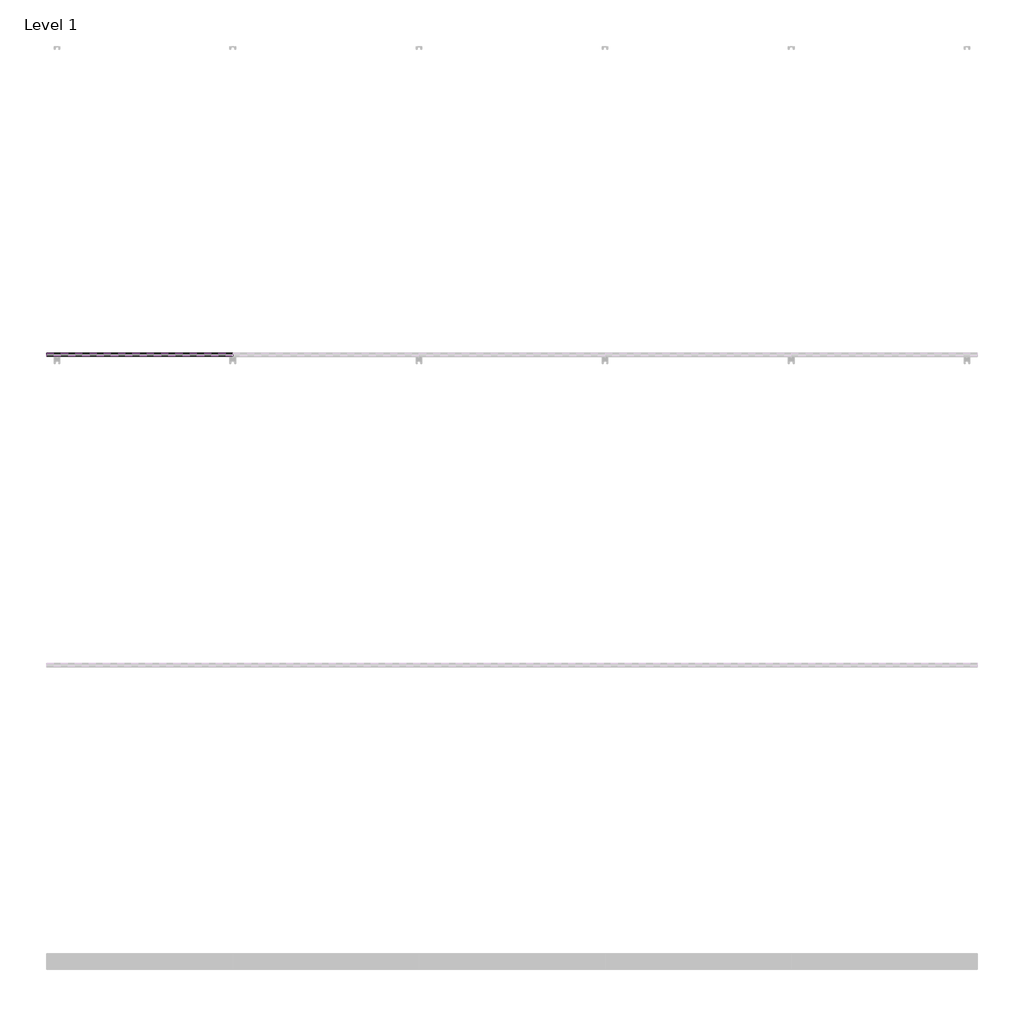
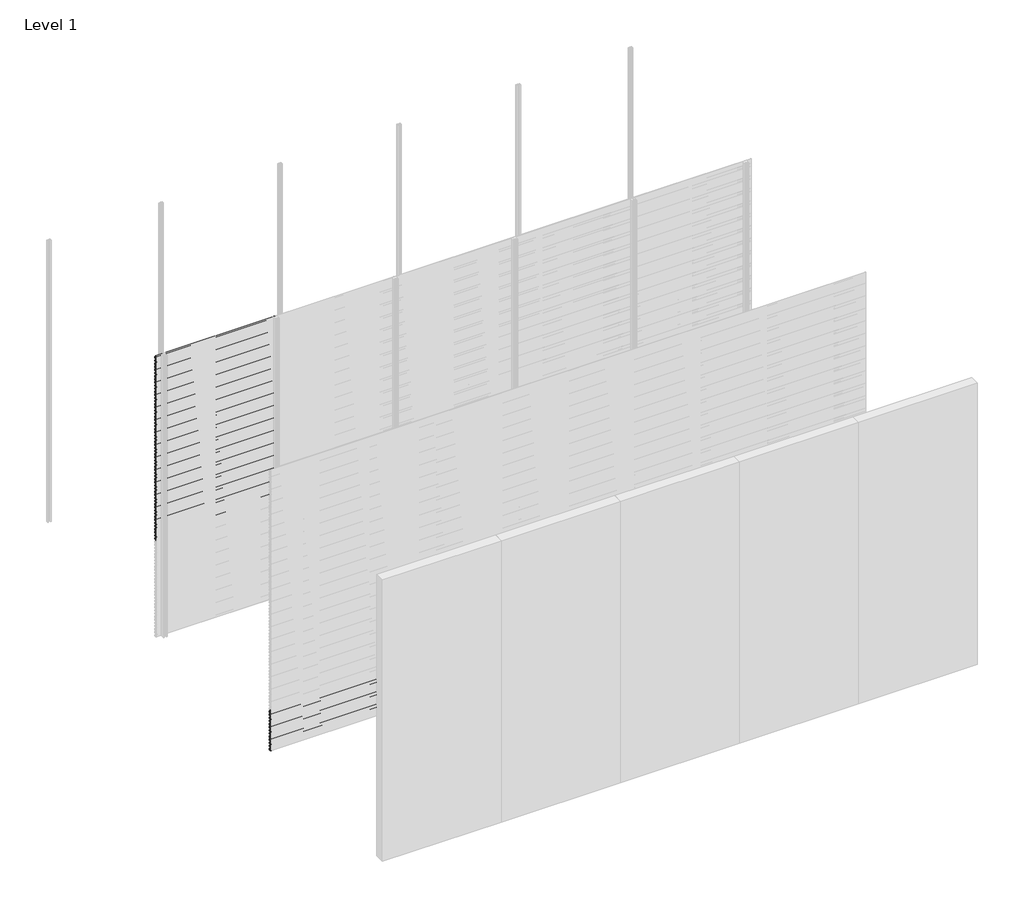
# One storey, part 57 of 77: 72 proxies.
"""IFC4 building model written with IfcOpenShell, lengths in millimetres."""

from ifc_helpers import new_model, si_unit, frame, origin, place, context, project, spatial, polyline, outline, extrude, element, save

model = new_model("IFC4")

# Units and contexts
model_context = context("Model", 3, world=origin())
ifc_project = project(units=[si_unit("LENGTHUNIT", "METRE", prefix="MILLI")], contexts=[model_context])

# Site, building, storey
site = spatial("IfcSite", under=ifc_project)
building = spatial("IfcBuilding", under=site)
storey = spatial("IfcBuildingStorey", under=building, Name="Level 1", Elevation=0.0)

# Proxies
placement = place(None, origin())
element("IfcBuildingElementProxy", 1, Name="Wall Sweeps", at=placement, inside=storey, context=model_context, shape_type="SweptSolid", body=[
    extrude(outline(polyline([(-11978.6, 2972.5359887), (-11998.0, 2983.7366691), (-11998.0, 2997.0), (-11997.0, 2997.0), (-11997.0, 2984.3191057), (-11977.6, 2973.1185105), (-11977.6, 2959.5185105), (-11978.6, 2961.0953129), (-11978.6, 2966.9032062), (-11995.9773817, 2958.8), (-11996.4, 2959.7063078), (-11978.6, 2968.0065841), (-11978.6, 2972.5359887)])), frame((0.0, 0.0, 0.0), z_axis=(1.0, 0.0, 0.0), x_axis=(0.0, 1.0, 0.0)), (0.0, 0.0, 1.0), 1200.0),
])
element("IfcBuildingElementProxy", 2, Name="Wall Sweeps", at=placement, inside=storey, context=model_context, shape_type="SweptSolid", body=[
    extrude(outline(polyline([(-11978.6, 2939.2359887), (-11998.0, 2950.4366691), (-11998.0, 2963.7), (-11997.0, 2963.7), (-11997.0, 2951.0191057), (-11977.6, 2939.8185105), (-11977.6, 2926.2185105), (-11978.6, 2927.7953129), (-11978.6, 2933.6032062), (-11995.9773817, 2925.5), (-11996.4, 2926.4063078), (-11978.6, 2934.7065841), (-11978.6, 2939.2359887)])), frame((0.0, 0.0, 0.0), z_axis=(1.0, 0.0, 0.0), x_axis=(0.0, 1.0, 0.0)), (0.0, 0.0, 1.0), 1200.0),
])
element("IfcBuildingElementProxy", 3, Name="Wall Sweeps", at=placement, inside=storey, context=model_context, shape_type="SweptSolid", body=[
    extrude(outline(polyline([(-11978.6, 2905.9359887), (-11998.0, 2917.1366691), (-11998.0, 2930.4), (-11997.0, 2930.4), (-11997.0, 2917.7191057), (-11977.6, 2906.5185105), (-11977.6, 2892.9185105), (-11978.6, 2894.4953129), (-11978.6, 2900.3032062), (-11995.9773817, 2892.2), (-11996.4, 2893.1063078), (-11978.6, 2901.4065841), (-11978.6, 2905.9359887)])), frame((0.0, 0.0, 0.0), z_axis=(1.0, 0.0, 0.0), x_axis=(0.0, 1.0, 0.0)), (0.0, 0.0, 1.0), 1200.0),
])
element("IfcBuildingElementProxy", 4, Name="Wall Sweeps", at=placement, inside=storey, context=model_context, shape_type="SweptSolid", body=[
    extrude(outline(polyline([(-11978.6, 2872.6359887), (-11998.0, 2883.8366691), (-11998.0, 2897.1), (-11997.0, 2897.1), (-11997.0, 2884.4191057), (-11977.6, 2873.2185105), (-11977.6, 2859.6185105), (-11978.6, 2861.1953129), (-11978.6, 2867.0032062), (-11995.9773817, 2858.9), (-11996.4, 2859.8063078), (-11978.6, 2868.1065841), (-11978.6, 2872.6359887)])), frame((0.0, 0.0, 0.0), z_axis=(1.0, 0.0, 0.0), x_axis=(0.0, 1.0, 0.0)), (0.0, 0.0, 1.0), 1200.0),
])
element("IfcBuildingElementProxy", 5, Name="Wall Sweeps", at=placement, inside=storey, context=model_context, shape_type="SweptSolid", body=[
    extrude(outline(polyline([(-11978.6, 2839.3359887), (-11998.0, 2850.5366691), (-11998.0, 2863.8), (-11997.0, 2863.8), (-11997.0, 2851.1191057), (-11977.6, 2839.9185105), (-11977.6, 2826.3185105), (-11978.6, 2827.8953129), (-11978.6, 2833.7032062), (-11995.9773817, 2825.6), (-11996.4, 2826.5063078), (-11978.6, 2834.8065841), (-11978.6, 2839.3359887)])), frame((0.0, 0.0, 0.0), z_axis=(1.0, 0.0, 0.0), x_axis=(0.0, 1.0, 0.0)), (0.0, 0.0, 1.0), 1200.0),
])
element("IfcBuildingElementProxy", 6, Name="Wall Sweeps", at=placement, inside=storey, context=model_context, shape_type="SweptSolid", body=[
    extrude(outline(polyline([(-11978.6, 2806.0359887), (-11998.0, 2817.2366691), (-11998.0, 2830.5), (-11997.0, 2830.5), (-11997.0, 2817.8191057), (-11977.6, 2806.6185105), (-11977.6, 2793.0185105), (-11978.6, 2794.5953129), (-11978.6, 2800.4032062), (-11995.9773817, 2792.3), (-11996.4, 2793.2063078), (-11978.6, 2801.5065841), (-11978.6, 2806.0359887)])), frame((0.0, 0.0, 0.0), z_axis=(1.0, 0.0, 0.0), x_axis=(0.0, 1.0, 0.0)), (0.0, 0.0, 1.0), 1200.0),
])
element("IfcBuildingElementProxy", 7, Name="Wall Sweeps", at=placement, inside=storey, context=model_context, shape_type="SweptSolid", body=[
    extrude(outline(polyline([(-11978.6, 2772.7359887), (-11998.0, 2783.9366691), (-11998.0, 2797.2), (-11997.0, 2797.2), (-11997.0, 2784.5191057), (-11977.6, 2773.3185105), (-11977.6, 2759.7185105), (-11978.6, 2761.2953129), (-11978.6, 2767.1032062), (-11995.9773817, 2759.0), (-11996.4, 2759.9063078), (-11978.6, 2768.2065841), (-11978.6, 2772.7359887)])), frame((0.0, 0.0, 0.0), z_axis=(1.0, 0.0, 0.0), x_axis=(0.0, 1.0, 0.0)), (0.0, 0.0, 1.0), 1200.0),
])
element("IfcBuildingElementProxy", 8, Name="Wall Sweeps", at=placement, inside=storey, context=model_context, shape_type="SweptSolid", body=[
    extrude(outline(polyline([(-11978.6, 2739.4359887), (-11998.0, 2750.6366691), (-11998.0, 2763.9), (-11997.0, 2763.9), (-11997.0, 2751.2191057), (-11977.6, 2740.0185105), (-11977.6, 2726.4185105), (-11978.6, 2727.9953129), (-11978.6, 2733.8032062), (-11995.9773817, 2725.7), (-11996.4, 2726.6063078), (-11978.6, 2734.9065841), (-11978.6, 2739.4359887)])), frame((0.0, 0.0, 0.0), z_axis=(1.0, 0.0, 0.0), x_axis=(0.0, 1.0, 0.0)), (0.0, 0.0, 1.0), 1200.0),
])
element("IfcBuildingElementProxy", 9, Name="Wall Sweeps", at=placement, inside=storey, context=model_context, shape_type="SweptSolid", body=[
    extrude(outline(polyline([(-11978.6, 2706.1359887), (-11998.0, 2717.3366691), (-11998.0, 2730.6), (-11997.0, 2730.6), (-11997.0, 2717.9191057), (-11977.6, 2706.7185105), (-11977.6, 2693.1185105), (-11978.6, 2694.6953129), (-11978.6, 2700.5032062), (-11995.9773817, 2692.4), (-11996.4, 2693.3063078), (-11978.6, 2701.6065841), (-11978.6, 2706.1359887)])), frame((0.0, 0.0, 0.0), z_axis=(1.0, 0.0, 0.0), x_axis=(0.0, 1.0, 0.0)), (0.0, 0.0, 1.0), 1200.0),
])
element("IfcBuildingElementProxy", 10, Name="Wall Sweeps", at=placement, inside=storey, context=model_context, shape_type="SweptSolid", body=[
    extrude(outline(polyline([(-11978.6, 2672.8359887), (-11998.0, 2684.0366691), (-11998.0, 2697.3), (-11997.0, 2697.3), (-11997.0, 2684.6191057), (-11977.6, 2673.4185105), (-11977.6, 2659.8185105), (-11978.6, 2661.3953129), (-11978.6, 2667.2032062), (-11995.9773817, 2659.1), (-11996.4, 2660.0063078), (-11978.6, 2668.3065841), (-11978.6, 2672.8359887)])), frame((0.0, 0.0, 0.0), z_axis=(1.0, 0.0, 0.0), x_axis=(0.0, 1.0, 0.0)), (0.0, 0.0, 1.0), 1200.0),
])
element("IfcBuildingElementProxy", 11, Name="Wall Sweeps", at=placement, inside=storey, context=model_context, shape_type="SweptSolid", body=[
    extrude(outline(polyline([(-11978.6, 2639.5359887), (-11998.0, 2650.7366691), (-11998.0, 2664.0), (-11997.0, 2664.0), (-11997.0, 2651.3191057), (-11977.6, 2640.1185105), (-11977.6, 2626.5185105), (-11978.6, 2628.0953129), (-11978.6, 2633.9032062), (-11995.9773817, 2625.8), (-11996.4, 2626.7063078), (-11978.6, 2635.0065841), (-11978.6, 2639.5359887)])), frame((0.0, 0.0, 0.0), z_axis=(1.0, 0.0, 0.0), x_axis=(0.0, 1.0, 0.0)), (0.0, 0.0, 1.0), 1200.0),
])
element("IfcBuildingElementProxy", 12, Name="Wall Sweeps", at=placement, inside=storey, context=model_context, shape_type="SweptSolid", body=[
    extrude(outline(polyline([(-11978.6, 2606.2359887), (-11998.0, 2617.4366691), (-11998.0, 2630.7), (-11997.0, 2630.7), (-11997.0, 2618.0191057), (-11977.6, 2606.8185105), (-11977.6, 2593.2185105), (-11978.6, 2594.7953129), (-11978.6, 2600.6032062), (-11995.9773817, 2592.5), (-11996.4, 2593.4063078), (-11978.6, 2601.7065841), (-11978.6, 2606.2359887)])), frame((0.0, 0.0, 0.0), z_axis=(1.0, 0.0, 0.0), x_axis=(0.0, 1.0, 0.0)), (0.0, 0.0, 1.0), 1200.0),
])
element("IfcBuildingElementProxy", 13, Name="Wall Sweeps", at=placement, inside=storey, context=model_context, shape_type="SweptSolid", body=[
    extrude(outline(polyline([(-11978.6, 2572.9359887), (-11998.0, 2584.1366691), (-11998.0, 2597.4), (-11997.0, 2597.4), (-11997.0, 2584.7191057), (-11977.6, 2573.5185105), (-11977.6, 2559.9185105), (-11978.6, 2561.4953129), (-11978.6, 2567.3032062), (-11995.9773817, 2559.2), (-11996.4, 2560.1063078), (-11978.6, 2568.4065841), (-11978.6, 2572.9359887)])), frame((0.0, 0.0, 0.0), z_axis=(1.0, 0.0, 0.0), x_axis=(0.0, 1.0, 0.0)), (0.0, 0.0, 1.0), 1200.0),
])
element("IfcBuildingElementProxy", 14, Name="Wall Sweeps", at=placement, inside=storey, context=model_context, shape_type="SweptSolid", body=[
    extrude(outline(polyline([(-11978.6, 2539.6359887), (-11998.0, 2550.8366691), (-11998.0, 2564.1), (-11997.0, 2564.1), (-11997.0, 2551.4191057), (-11977.6, 2540.2185105), (-11977.6, 2526.6185105), (-11978.6, 2528.1953129), (-11978.6, 2534.0032062), (-11995.9773817, 2525.9), (-11996.4, 2526.8063078), (-11978.6, 2535.1065841), (-11978.6, 2539.6359887)])), frame((0.0, 0.0, 0.0), z_axis=(1.0, 0.0, 0.0), x_axis=(0.0, 1.0, 0.0)), (0.0, 0.0, 1.0), 1200.0),
])
element("IfcBuildingElementProxy", 15, Name="Wall Sweeps", at=placement, inside=storey, context=model_context, shape_type="SweptSolid", body=[
    extrude(outline(polyline([(-11978.6, 2506.3359887), (-11998.0, 2517.5366691), (-11998.0, 2530.8), (-11997.0, 2530.8), (-11997.0, 2518.1191057), (-11977.6, 2506.9185105), (-11977.6, 2493.3185105), (-11978.6, 2494.8953129), (-11978.6, 2500.7032062), (-11995.9773817, 2492.6), (-11996.4, 2493.5063078), (-11978.6, 2501.8065841), (-11978.6, 2506.3359887)])), frame((0.0, 0.0, 0.0), z_axis=(1.0, 0.0, 0.0), x_axis=(0.0, 1.0, 0.0)), (0.0, 0.0, 1.0), 1200.0),
])
element("IfcBuildingElementProxy", 16, Name="Wall Sweeps", at=placement, inside=storey, context=model_context, shape_type="SweptSolid", body=[
    extrude(outline(polyline([(-11978.6, 2473.0359887), (-11998.0, 2484.2366691), (-11998.0, 2497.5), (-11997.0, 2497.5), (-11997.0, 2484.8191057), (-11977.6, 2473.6185105), (-11977.6, 2460.0185105), (-11978.6, 2461.5953129), (-11978.6, 2467.4032062), (-11995.9773817, 2459.3), (-11996.4, 2460.2063078), (-11978.6, 2468.5065841), (-11978.6, 2473.0359887)])), frame((0.0, 0.0, 0.0), z_axis=(1.0, 0.0, 0.0), x_axis=(0.0, 1.0, 0.0)), (0.0, 0.0, 1.0), 1200.0),
])
element("IfcBuildingElementProxy", 17, Name="Wall Sweeps", at=placement, inside=storey, context=model_context, shape_type="SweptSolid", body=[
    extrude(outline(polyline([(-11978.6, 2439.7359887), (-11998.0, 2450.9366691), (-11998.0, 2464.2), (-11997.0, 2464.2), (-11997.0, 2451.5191057), (-11977.6, 2440.3185105), (-11977.6, 2426.7185105), (-11978.6, 2428.2953129), (-11978.6, 2434.1032062), (-11995.9773817, 2426.0), (-11996.4, 2426.9063078), (-11978.6, 2435.2065841), (-11978.6, 2439.7359887)])), frame((0.0, 0.0, 0.0), z_axis=(1.0, 0.0, 0.0), x_axis=(0.0, 1.0, 0.0)), (0.0, 0.0, 1.0), 1200.0),
])
element("IfcBuildingElementProxy", 18, Name="Wall Sweeps", at=placement, inside=storey, context=model_context, shape_type="SweptSolid", body=[
    extrude(outline(polyline([(-11978.6, 2406.4359887), (-11998.0, 2417.6366691), (-11998.0, 2430.9), (-11997.0, 2430.9), (-11997.0, 2418.2191057), (-11977.6, 2407.0185105), (-11977.6, 2393.4185105), (-11978.6, 2394.9953129), (-11978.6, 2400.8032062), (-11995.9773817, 2392.7), (-11996.4, 2393.6063078), (-11978.6, 2401.9065841), (-11978.6, 2406.4359887)])), frame((0.0, 0.0, 0.0), z_axis=(1.0, 0.0, 0.0), x_axis=(0.0, 1.0, 0.0)), (0.0, 0.0, 1.0), 1200.0),
])
element("IfcBuildingElementProxy", 19, Name="Wall Sweeps", at=placement, inside=storey, context=model_context, shape_type="SweptSolid", body=[
    extrude(outline(polyline([(-11978.6, 2373.1359887), (-11998.0, 2384.3366691), (-11998.0, 2397.6), (-11997.0, 2397.6), (-11997.0, 2384.9191057), (-11977.6, 2373.7185105), (-11977.6, 2360.1185105), (-11978.6, 2361.6953129), (-11978.6, 2367.5032062), (-11995.9773817, 2359.4), (-11996.4, 2360.3063078), (-11978.6, 2368.6065841), (-11978.6, 2373.1359887)])), frame((0.0, 0.0, 0.0), z_axis=(1.0, 0.0, 0.0), x_axis=(0.0, 1.0, 0.0)), (0.0, 0.0, 1.0), 1200.0),
])
element("IfcBuildingElementProxy", 20, Name="Wall Sweeps", at=placement, inside=storey, context=model_context, shape_type="SweptSolid", body=[
    extrude(outline(polyline([(-11978.6, 2339.8359887), (-11998.0, 2351.0366691), (-11998.0, 2364.3), (-11997.0, 2364.3), (-11997.0, 2351.6191057), (-11977.6, 2340.4185105), (-11977.6, 2326.8185105), (-11978.6, 2328.3953129), (-11978.6, 2334.2032062), (-11995.9773817, 2326.1), (-11996.4, 2327.0063078), (-11978.6, 2335.3065841), (-11978.6, 2339.8359887)])), frame((0.0, 0.0, 0.0), z_axis=(1.0, 0.0, 0.0), x_axis=(0.0, 1.0, 0.0)), (0.0, 0.0, 1.0), 1200.0),
])
element("IfcBuildingElementProxy", 21, Name="Wall Sweeps", at=placement, inside=storey, context=model_context, shape_type="SweptSolid", body=[
    extrude(outline(polyline([(-11978.6, 2306.5359887), (-11998.0, 2317.7366691), (-11998.0, 2331.0), (-11997.0, 2331.0), (-11997.0, 2318.3191057), (-11977.6, 2307.1185105), (-11977.6, 2293.5185105), (-11978.6, 2295.0953129), (-11978.6, 2300.9032062), (-11995.9773817, 2292.8), (-11996.4, 2293.7063078), (-11978.6, 2302.0065841), (-11978.6, 2306.5359887)])), frame((0.0, 0.0, 0.0), z_axis=(1.0, 0.0, 0.0), x_axis=(0.0, 1.0, 0.0)), (0.0, 0.0, 1.0), 1200.0),
])
element("IfcBuildingElementProxy", 22, Name="Wall Sweeps", at=placement, inside=storey, context=model_context, shape_type="SweptSolid", body=[
    extrude(outline(polyline([(-11978.6, 2273.2359887), (-11998.0, 2284.4366691), (-11998.0, 2297.7), (-11997.0, 2297.7), (-11997.0, 2285.0191057), (-11977.6, 2273.8185105), (-11977.6, 2260.2185105), (-11978.6, 2261.7953129), (-11978.6, 2267.6032062), (-11995.9773817, 2259.5), (-11996.4, 2260.4063078), (-11978.6, 2268.7065841), (-11978.6, 2273.2359887)])), frame((0.0, 0.0, 0.0), z_axis=(1.0, 0.0, 0.0), x_axis=(0.0, 1.0, 0.0)), (0.0, 0.0, 1.0), 1200.0),
])
element("IfcBuildingElementProxy", 23, Name="Wall Sweeps", at=placement, inside=storey, context=model_context, shape_type="SweptSolid", body=[
    extrude(outline(polyline([(-11978.6, 2239.9359887), (-11998.0, 2251.1366691), (-11998.0, 2264.4), (-11997.0, 2264.4), (-11997.0, 2251.7191057), (-11977.6, 2240.5185105), (-11977.6, 2226.9185105), (-11978.6, 2228.4953129), (-11978.6, 2234.3032062), (-11995.9773817, 2226.2), (-11996.4, 2227.1063078), (-11978.6, 2235.4065841), (-11978.6, 2239.9359887)])), frame((0.0, 0.0, 0.0), z_axis=(1.0, 0.0, 0.0), x_axis=(0.0, 1.0, 0.0)), (0.0, 0.0, 1.0), 1200.0),
])
element("IfcBuildingElementProxy", 24, Name="Wall Sweeps", at=placement, inside=storey, context=model_context, shape_type="SweptSolid", body=[
    extrude(outline(polyline([(-11978.6, 2206.6359887), (-11998.0, 2217.8366691), (-11998.0, 2231.1), (-11997.0, 2231.1), (-11997.0, 2218.4191057), (-11977.6, 2207.2185105), (-11977.6, 2193.6185105), (-11978.6, 2195.1953129), (-11978.6, 2201.0032062), (-11995.9773817, 2192.9), (-11996.4, 2193.8063078), (-11978.6, 2202.1065841), (-11978.6, 2206.6359887)])), frame((0.0, 0.0, 0.0), z_axis=(1.0, 0.0, 0.0), x_axis=(0.0, 1.0, 0.0)), (0.0, 0.0, 1.0), 1200.0),
])
element("IfcBuildingElementProxy", 25, Name="Wall Sweeps", at=placement, inside=storey, context=model_context, shape_type="SweptSolid", body=[
    extrude(outline(polyline([(-11978.6, 2173.3359887), (-11998.0, 2184.5366691), (-11998.0, 2197.8), (-11997.0, 2197.8), (-11997.0, 2185.1191057), (-11977.6, 2173.9185105), (-11977.6, 2160.3185105), (-11978.6, 2161.8953129), (-11978.6, 2167.7032062), (-11995.9773817, 2159.6), (-11996.4, 2160.5063078), (-11978.6, 2168.8065841), (-11978.6, 2173.3359887)])), frame((0.0, 0.0, 0.0), z_axis=(1.0, 0.0, 0.0), x_axis=(0.0, 1.0, 0.0)), (0.0, 0.0, 1.0), 1200.0),
])
element("IfcBuildingElementProxy", 26, Name="Wall Sweeps", at=placement, inside=storey, context=model_context, shape_type="SweptSolid", body=[
    extrude(outline(polyline([(-11978.6, 2140.0359887), (-11998.0, 2151.2366691), (-11998.0, 2164.5), (-11997.0, 2164.5), (-11997.0, 2151.8191057), (-11977.6, 2140.6185105), (-11977.6, 2127.0185105), (-11978.6, 2128.5953129), (-11978.6, 2134.4032062), (-11995.9773817, 2126.3), (-11996.4, 2127.2063078), (-11978.6, 2135.5065841), (-11978.6, 2140.0359887)])), frame((0.0, 0.0, 0.0), z_axis=(1.0, 0.0, 0.0), x_axis=(0.0, 1.0, 0.0)), (0.0, 0.0, 1.0), 1200.0),
])
element("IfcBuildingElementProxy", 27, Name="Wall Sweeps", at=placement, inside=storey, context=model_context, shape_type="SweptSolid", body=[
    extrude(outline(polyline([(-11978.6, 2106.7359887), (-11998.0, 2117.9366691), (-11998.0, 2131.2), (-11997.0, 2131.2), (-11997.0, 2118.5191057), (-11977.6, 2107.3185105), (-11977.6, 2093.7185105), (-11978.6, 2095.2953129), (-11978.6, 2101.1032062), (-11995.9773817, 2093.0), (-11996.4, 2093.9063078), (-11978.6, 2102.2065841), (-11978.6, 2106.7359887)])), frame((0.0, 0.0, 0.0), z_axis=(1.0, 0.0, 0.0), x_axis=(0.0, 1.0, 0.0)), (0.0, 0.0, 1.0), 1200.0),
])
element("IfcBuildingElementProxy", 28, Name="Wall Sweeps", at=placement, inside=storey, context=model_context, shape_type="SweptSolid", body=[
    extrude(outline(polyline([(-11978.6, 2073.4359887), (-11998.0, 2084.6366691), (-11998.0, 2097.9), (-11997.0, 2097.9), (-11997.0, 2085.2191057), (-11977.6, 2074.0185105), (-11977.6, 2060.4185105), (-11978.6, 2061.9953129), (-11978.6, 2067.8032062), (-11995.9773817, 2059.7), (-11996.4, 2060.6063078), (-11978.6, 2068.9065841), (-11978.6, 2073.4359887)])), frame((0.0, 0.0, 0.0), z_axis=(1.0, 0.0, 0.0), x_axis=(0.0, 1.0, 0.0)), (0.0, 0.0, 1.0), 1200.0),
])
element("IfcBuildingElementProxy", 29, Name="Wall Sweeps", at=placement, inside=storey, context=model_context, shape_type="SweptSolid", body=[
    extrude(outline(polyline([(-11978.6, 2040.1359887), (-11998.0, 2051.3366691), (-11998.0, 2064.6), (-11997.0, 2064.6), (-11997.0, 2051.9191057), (-11977.6, 2040.7185105), (-11977.6, 2027.1185105), (-11978.6, 2028.6953129), (-11978.6, 2034.5032062), (-11995.9773817, 2026.4), (-11996.4, 2027.3063078), (-11978.6, 2035.6065841), (-11978.6, 2040.1359887)])), frame((0.0, 0.0, 0.0), z_axis=(1.0, 0.0, 0.0), x_axis=(0.0, 1.0, 0.0)), (0.0, 0.0, 1.0), 1200.0),
])
element("IfcBuildingElementProxy", 30, Name="Wall Sweeps", at=placement, inside=storey, context=model_context, shape_type="SweptSolid", body=[
    extrude(outline(polyline([(-11978.6, 2006.8359887), (-11998.0, 2018.0366691), (-11998.0, 2031.3), (-11997.0, 2031.3), (-11997.0, 2018.6191057), (-11977.6, 2007.4185105), (-11977.6, 1993.8185105), (-11978.6, 1995.3953129), (-11978.6, 2001.2032062), (-11995.9773817, 1993.1), (-11996.4, 1994.0063078), (-11978.6, 2002.3065841), (-11978.6, 2006.8359887)])), frame((0.0, 0.0, 0.0), z_axis=(1.0, 0.0, 0.0), x_axis=(0.0, 1.0, 0.0)), (0.0, 0.0, 1.0), 1200.0),
])
element("IfcBuildingElementProxy", 31, Name="Wall Sweeps", at=placement, inside=storey, context=model_context, shape_type="SweptSolid", body=[
    extrude(outline(polyline([(-11978.6, 1973.5359887), (-11998.0, 1984.7366691), (-11998.0, 1998.0), (-11997.0, 1998.0), (-11997.0, 1985.3191057), (-11977.6, 1974.1185105), (-11977.6, 1960.5185105), (-11978.6, 1962.0953129), (-11978.6, 1967.9032062), (-11995.9773817, 1959.8), (-11996.4, 1960.7063078), (-11978.6, 1969.0065841), (-11978.6, 1973.5359887)])), frame((0.0, 0.0, 0.0), z_axis=(1.0, 0.0, 0.0), x_axis=(0.0, 1.0, 0.0)), (0.0, 0.0, 1.0), 1200.0),
])
element("IfcBuildingElementProxy", 32, Name="Wall Sweeps", at=placement, inside=storey, context=model_context, shape_type="SweptSolid", body=[
    extrude(outline(polyline([(-11978.6, 1940.2359887), (-11998.0, 1951.4366691), (-11998.0, 1964.7), (-11997.0, 1964.7), (-11997.0, 1952.0191057), (-11977.6, 1940.8185105), (-11977.6, 1927.2185105), (-11978.6, 1928.7953129), (-11978.6, 1934.6032062), (-11995.9773817, 1926.5), (-11996.4, 1927.4063078), (-11978.6, 1935.7065841), (-11978.6, 1940.2359887)])), frame((0.0, 0.0, 0.0), z_axis=(1.0, 0.0, 0.0), x_axis=(0.0, 1.0, 0.0)), (0.0, 0.0, 1.0), 1200.0),
])
element("IfcBuildingElementProxy", 33, Name="Wall Sweeps", at=placement, inside=storey, context=model_context, shape_type="SweptSolid", body=[
    extrude(outline(polyline([(-11978.6, 1906.9359887), (-11998.0, 1918.1366691), (-11998.0, 1931.4), (-11997.0, 1931.4), (-11997.0, 1918.7191057), (-11977.6, 1907.5185105), (-11977.6, 1893.9185105), (-11978.6, 1895.4953129), (-11978.6, 1901.3032062), (-11995.9773817, 1893.2), (-11996.4, 1894.1063078), (-11978.6, 1902.4065841), (-11978.6, 1906.9359887)])), frame((0.0, 0.0, 0.0), z_axis=(1.0, 0.0, 0.0), x_axis=(0.0, 1.0, 0.0)), (0.0, 0.0, 1.0), 1200.0),
])
element("IfcBuildingElementProxy", 34, Name="Wall Sweeps", at=placement, inside=storey, context=model_context, shape_type="SweptSolid", body=[
    extrude(outline(polyline([(-11978.6, 1873.6359887), (-11998.0, 1884.8366691), (-11998.0, 1898.1), (-11997.0, 1898.1), (-11997.0, 1885.4191057), (-11977.6, 1874.2185105), (-11977.6, 1860.6185105), (-11978.6, 1862.1953129), (-11978.6, 1868.0032062), (-11995.9773817, 1859.9), (-11996.4, 1860.8063078), (-11978.6, 1869.1065841), (-11978.6, 1873.6359887)])), frame((0.0, 0.0, 0.0), z_axis=(1.0, 0.0, 0.0), x_axis=(0.0, 1.0, 0.0)), (0.0, 0.0, 1.0), 1200.0),
])
element("IfcBuildingElementProxy", 35, Name="Wall Sweeps", at=placement, inside=storey, context=model_context, shape_type="SweptSolid", body=[
    extrude(outline(polyline([(-11978.6, 1840.3359887), (-11998.0, 1851.5366691), (-11998.0, 1864.8), (-11997.0, 1864.8), (-11997.0, 1852.1191057), (-11977.6, 1840.9185105), (-11977.6, 1827.3185105), (-11978.6, 1828.8953129), (-11978.6, 1834.7032062), (-11995.9773817, 1826.6), (-11996.4, 1827.5063078), (-11978.6, 1835.8065841), (-11978.6, 1840.3359887)])), frame((0.0, 0.0, 0.0), z_axis=(1.0, 0.0, 0.0), x_axis=(0.0, 1.0, 0.0)), (0.0, 0.0, 1.0), 1200.0),
])
element("IfcBuildingElementProxy", 36, Name="Wall Sweeps", at=placement, inside=storey, context=model_context, shape_type="SweptSolid", body=[
    extrude(outline(polyline([(-11978.6, 1807.0359887), (-11998.0, 1818.2366691), (-11998.0, 1831.5), (-11997.0, 1831.5), (-11997.0, 1818.8191057), (-11977.6, 1807.6185105), (-11977.6, 1794.0185105), (-11978.6, 1795.5953129), (-11978.6, 1801.4032062), (-11995.9773817, 1793.3), (-11996.4, 1794.2063078), (-11978.6, 1802.5065841), (-11978.6, 1807.0359887)])), frame((0.0, 0.0, 0.0), z_axis=(1.0, 0.0, 0.0), x_axis=(0.0, 1.0, 0.0)), (0.0, 0.0, 1.0), 1200.0),
])
element("IfcBuildingElementProxy", 37, Name="Wall Sweeps", at=placement, inside=storey, context=model_context, shape_type="SweptSolid", body=[
    extrude(outline(polyline([(-11978.6, 1773.7359887), (-11998.0, 1784.9366691), (-11998.0, 1798.2), (-11997.0, 1798.2), (-11997.0, 1785.5191057), (-11977.6, 1774.3185105), (-11977.6, 1760.7185105), (-11978.6, 1762.2953129), (-11978.6, 1768.1032062), (-11995.9773817, 1760.0), (-11996.4, 1760.9063078), (-11978.6, 1769.2065841), (-11978.6, 1773.7359887)])), frame((0.0, 0.0, 0.0), z_axis=(1.0, 0.0, 0.0), x_axis=(0.0, 1.0, 0.0)), (0.0, 0.0, 1.0), 1200.0),
])
element("IfcBuildingElementProxy", 38, Name="Wall Sweeps", at=placement, inside=storey, context=model_context, shape_type="SweptSolid", body=[
    extrude(outline(polyline([(-11978.6, 1740.4359887), (-11998.0, 1751.6366691), (-11998.0, 1764.9), (-11997.0, 1764.9), (-11997.0, 1752.2191057), (-11977.6, 1741.0185105), (-11977.6, 1727.4185105), (-11978.6, 1728.9953129), (-11978.6, 1734.8032062), (-11995.9773817, 1726.7), (-11996.4, 1727.6063078), (-11978.6, 1735.9065841), (-11978.6, 1740.4359887)])), frame((0.0, 0.0, 0.0), z_axis=(1.0, 0.0, 0.0), x_axis=(0.0, 1.0, 0.0)), (0.0, 0.0, 1.0), 1200.0),
])
element("IfcBuildingElementProxy", 39, Name="Wall Sweeps", at=placement, inside=storey, context=model_context, shape_type="SweptSolid", body=[
    extrude(outline(polyline([(-11978.6, 1707.1359887), (-11998.0, 1718.3366691), (-11998.0, 1731.6), (-11997.0, 1731.6), (-11997.0, 1718.9191057), (-11977.6, 1707.7185105), (-11977.6, 1694.1185105), (-11978.6, 1695.6953129), (-11978.6, 1701.5032062), (-11995.9773817, 1693.4), (-11996.4, 1694.3063078), (-11978.6, 1702.6065841), (-11978.6, 1707.1359887)])), frame((0.0, 0.0, 0.0), z_axis=(1.0, 0.0, 0.0), x_axis=(0.0, 1.0, 0.0)), (0.0, 0.0, 1.0), 1200.0),
])
element("IfcBuildingElementProxy", 40, Name="Wall Sweeps", at=placement, inside=storey, context=model_context, shape_type="SweptSolid", body=[
    extrude(outline(polyline([(-11978.6, 1673.8359887), (-11998.0, 1685.0366691), (-11998.0, 1698.3), (-11997.0, 1698.3), (-11997.0, 1685.6191057), (-11977.6, 1674.4185105), (-11977.6, 1660.8185105), (-11978.6, 1662.3953129), (-11978.6, 1668.2032062), (-11995.9773817, 1660.1), (-11996.4, 1661.0063078), (-11978.6, 1669.3065841), (-11978.6, 1673.8359887)])), frame((0.0, 0.0, 0.0), z_axis=(1.0, 0.0, 0.0), x_axis=(0.0, 1.0, 0.0)), (0.0, 0.0, 1.0), 1200.0),
])
element("IfcBuildingElementProxy", 41, Name="Wall Sweeps", at=placement, inside=storey, context=model_context, shape_type="SweptSolid", body=[
    extrude(outline(polyline([(-11978.6, 1640.5359887), (-11998.0, 1651.7366691), (-11998.0, 1665.0), (-11997.0, 1665.0), (-11997.0, 1652.3191057), (-11977.6, 1641.1185105), (-11977.6, 1627.5185105), (-11978.6, 1629.0953129), (-11978.6, 1634.9032062), (-11995.9773817, 1626.8), (-11996.4, 1627.7063078), (-11978.6, 1636.0065841), (-11978.6, 1640.5359887)])), frame((0.0, 0.0, 0.0), z_axis=(1.0, 0.0, 0.0), x_axis=(0.0, 1.0, 0.0)), (0.0, 0.0, 1.0), 1200.0),
])
element("IfcBuildingElementProxy", 42, Name="Wall Sweeps", at=placement, inside=storey, context=model_context, shape_type="SweptSolid", body=[
    extrude(outline(polyline([(-11978.6, 1607.2359887), (-11998.0, 1618.4366691), (-11998.0, 1631.7), (-11997.0, 1631.7), (-11997.0, 1619.0191057), (-11977.6, 1607.8185105), (-11977.6, 1594.2185105), (-11978.6, 1595.7953129), (-11978.6, 1601.6032062), (-11995.9773817, 1593.5), (-11996.4, 1594.4063078), (-11978.6, 1602.7065841), (-11978.6, 1607.2359887)])), frame((0.0, 0.0, 0.0), z_axis=(1.0, 0.0, 0.0), x_axis=(0.0, 1.0, 0.0)), (0.0, 0.0, 1.0), 1200.0),
])
element("IfcBuildingElementProxy", 43, Name="Wall Sweeps", at=placement, inside=storey, context=model_context, shape_type="SweptSolid", body=[
    extrude(outline(polyline([(-11978.6, 1573.9359887), (-11998.0, 1585.1366691), (-11998.0, 1598.4), (-11997.0, 1598.4), (-11997.0, 1585.7191057), (-11977.6, 1574.5185105), (-11977.6, 1560.9185105), (-11978.6, 1562.4953129), (-11978.6, 1568.3032062), (-11995.9773817, 1560.2), (-11996.4, 1561.1063078), (-11978.6, 1569.4065841), (-11978.6, 1573.9359887)])), frame((0.0, 0.0, 0.0), z_axis=(1.0, 0.0, 0.0), x_axis=(0.0, 1.0, 0.0)), (0.0, 0.0, 1.0), 1200.0),
])
element("IfcBuildingElementProxy", 44, Name="Wall Sweeps", at=placement, inside=storey, context=model_context, shape_type="SweptSolid", body=[
    extrude(outline(polyline([(-11978.6, 1540.6359887), (-11998.0, 1551.8366691), (-11998.0, 1565.1), (-11997.0, 1565.1), (-11997.0, 1552.4191057), (-11977.6, 1541.2185105), (-11977.6, 1527.6185105), (-11978.6, 1529.1953129), (-11978.6, 1535.0032062), (-11995.9773817, 1526.9), (-11996.4, 1527.8063078), (-11978.6, 1536.1065841), (-11978.6, 1540.6359887)])), frame((0.0, 0.0, 0.0), z_axis=(1.0, 0.0, 0.0), x_axis=(0.0, 1.0, 0.0)), (0.0, 0.0, 1.0), 1200.0),
])
element("IfcBuildingElementProxy", 45, Name="Wall Sweeps", at=placement, inside=storey, context=model_context, shape_type="SweptSolid", body=[
    extrude(outline(polyline([(-11978.6, 1507.3359887), (-11998.0, 1518.5366691), (-11998.0, 1531.8), (-11997.0, 1531.8), (-11997.0, 1519.1191057), (-11977.6, 1507.9185105), (-11977.6, 1494.3185105), (-11978.6, 1495.8953129), (-11978.6, 1501.7032062), (-11995.9773817, 1493.6), (-11996.4, 1494.5063078), (-11978.6, 1502.8065841), (-11978.6, 1507.3359887)])), frame((0.0, 0.0, 0.0), z_axis=(1.0, 0.0, 0.0), x_axis=(0.0, 1.0, 0.0)), (0.0, 0.0, 1.0), 1200.0),
])
element("IfcBuildingElementProxy", 46, Name="Wall Sweeps", at=placement, inside=storey, context=model_context, shape_type="SweptSolid", body=[
    extrude(outline(polyline([(-11978.6, 1474.0359887), (-11998.0, 1485.2366691), (-11998.0, 1498.5), (-11997.0, 1498.5), (-11997.0, 1485.8191057), (-11977.6, 1474.6185105), (-11977.6, 1461.0185105), (-11978.6, 1462.5953129), (-11978.6, 1468.4032062), (-11995.9773817, 1460.3), (-11996.4, 1461.2063078), (-11978.6, 1469.5065841), (-11978.6, 1474.0359887)])), frame((0.0, 0.0, 0.0), z_axis=(1.0, 0.0, 0.0), x_axis=(0.0, 1.0, 0.0)), (0.0, 0.0, 1.0), 1200.0),
])
element("IfcBuildingElementProxy", 47, Name="Wall Sweeps", at=placement, inside=storey, context=model_context, shape_type="SweptSolid", body=[
    extrude(outline(polyline([(-11978.6, 1440.7359887), (-11998.0, 1451.9366691), (-11998.0, 1465.2), (-11997.0, 1465.2), (-11997.0, 1452.5191057), (-11977.6, 1441.3185105), (-11977.6, 1427.7185105), (-11978.6, 1429.2953129), (-11978.6, 1435.1032062), (-11995.9773817, 1427.0), (-11996.4, 1427.9063078), (-11978.6, 1436.2065841), (-11978.6, 1440.7359887)])), frame((0.0, 0.0, 0.0), z_axis=(1.0, 0.0, 0.0), x_axis=(0.0, 1.0, 0.0)), (0.0, 0.0, 1.0), 1200.0),
])
element("IfcBuildingElementProxy", 48, Name="Wall Sweeps", at=placement, inside=storey, context=model_context, shape_type="SweptSolid", body=[
    extrude(outline(polyline([(-11978.6, 1407.4359887), (-11998.0, 1418.6366691), (-11998.0, 1431.9), (-11997.0, 1431.9), (-11997.0, 1419.2191057), (-11977.6, 1408.0185105), (-11977.6, 1394.4185105), (-11978.6, 1395.9953129), (-11978.6, 1401.8032062), (-11995.9773817, 1393.7), (-11996.4, 1394.6063078), (-11978.6, 1402.9065841), (-11978.6, 1407.4359887)])), frame((0.0, 0.0, 0.0), z_axis=(1.0, 0.0, 0.0), x_axis=(0.0, 1.0, 0.0)), (0.0, 0.0, 1.0), 1200.0),
])
element("IfcBuildingElementProxy", 49, Name="Wall Sweeps", at=placement, inside=storey, context=model_context, shape_type="SweptSolid", body=[
    extrude(outline(polyline([(-11978.6, 1374.1359887), (-11998.0, 1385.3366691), (-11998.0, 1398.6), (-11997.0, 1398.6), (-11997.0, 1385.9191057), (-11977.6, 1374.7185105), (-11977.6, 1361.1185105), (-11978.6, 1362.6953129), (-11978.6, 1368.5032062), (-11995.9773817, 1360.4), (-11996.4, 1361.3063078), (-11978.6, 1369.6065841), (-11978.6, 1374.1359887)])), frame((0.0, 0.0, 0.0), z_axis=(1.0, 0.0, 0.0), x_axis=(0.0, 1.0, 0.0)), (0.0, 0.0, 1.0), 1200.0),
])
element("IfcBuildingElementProxy", 50, Name="Wall Sweeps", at=placement, inside=storey, context=model_context, shape_type="SweptSolid", body=[
    extrude(outline(polyline([(-11978.6, 1340.8359887), (-11998.0, 1352.0366691), (-11998.0, 1365.3), (-11997.0, 1365.3), (-11997.0, 1352.6191057), (-11977.6, 1341.4185105), (-11977.6, 1327.8185105), (-11978.6, 1329.3953129), (-11978.6, 1335.2032062), (-11995.9773817, 1327.1), (-11996.4, 1328.0063078), (-11978.6, 1336.3065841), (-11978.6, 1340.8359887)])), frame((0.0, 0.0, 0.0), z_axis=(1.0, 0.0, 0.0), x_axis=(0.0, 1.0, 0.0)), (0.0, 0.0, 1.0), 1200.0),
])
element("IfcBuildingElementProxy", 51, Name="Wall Sweeps", at=placement, inside=storey, context=model_context, shape_type="SweptSolid", body=[
    extrude(outline(polyline([(-11978.6, 1307.5359887), (-11998.0, 1318.7366691), (-11998.0, 1332.0), (-11997.0, 1332.0), (-11997.0, 1319.3191057), (-11977.6, 1308.1185105), (-11977.6, 1294.5185105), (-11978.6, 1296.0953129), (-11978.6, 1301.9032062), (-11995.9773817, 1293.8), (-11996.4, 1294.7063078), (-11978.6, 1303.0065841), (-11978.6, 1307.5359887)])), frame((0.0, 0.0, 0.0), z_axis=(1.0, 0.0, 0.0), x_axis=(0.0, 1.0, 0.0)), (0.0, 0.0, 1.0), 1200.0),
])
element("IfcBuildingElementProxy", 52, Name="Wall Sweeps", at=placement, inside=storey, context=model_context, shape_type="SweptSolid", body=[
    extrude(outline(polyline([(-11978.6, 1274.2359887), (-11998.0, 1285.4366691), (-11998.0, 1298.7), (-11997.0, 1298.7), (-11997.0, 1286.0191057), (-11977.6, 1274.8185105), (-11977.6, 1261.2185105), (-11978.6, 1262.7953129), (-11978.6, 1268.6032062), (-11995.9773817, 1260.5), (-11996.4, 1261.4063078), (-11978.6, 1269.7065841), (-11978.6, 1274.2359887)])), frame((0.0, 0.0, 0.0), z_axis=(1.0, 0.0, 0.0), x_axis=(0.0, 1.0, 0.0)), (0.0, 0.0, 1.0), 1200.0),
])
element("IfcBuildingElementProxy", 53, Name="Wall Sweeps", at=placement, inside=storey, context=model_context, shape_type="SweptSolid", body=[
    extrude(outline(polyline([(-11978.6, 1240.9359887), (-11998.0, 1252.1366691), (-11998.0, 1265.4), (-11997.0, 1265.4), (-11997.0, 1252.7191057), (-11977.6, 1241.5185105), (-11977.6, 1227.9185105), (-11978.6, 1229.4953129), (-11978.6, 1235.3032062), (-11995.9773817, 1227.2), (-11996.4, 1228.1063078), (-11978.6, 1236.4065841), (-11978.6, 1240.9359887)])), frame((0.0, 0.0, 0.0), z_axis=(1.0, 0.0, 0.0), x_axis=(0.0, 1.0, 0.0)), (0.0, 0.0, 1.0), 1200.0),
])
element("IfcBuildingElementProxy", 54, Name="Wall Sweeps", at=placement, inside=storey, context=model_context, shape_type="SweptSolid", body=[
    extrude(outline(polyline([(-11978.6, 1207.6359887), (-11998.0, 1218.8366691), (-11998.0, 1232.1), (-11997.0, 1232.1), (-11997.0, 1219.4191057), (-11977.6, 1208.2185105), (-11977.6, 1194.6185105), (-11978.6, 1196.1953129), (-11978.6, 1202.0032062), (-11995.9773817, 1193.9), (-11996.4, 1194.8063078), (-11978.6, 1203.1065841), (-11978.6, 1207.6359887)])), frame((0.0, 0.0, 0.0), z_axis=(1.0, 0.0, 0.0), x_axis=(0.0, 1.0, 0.0)), (0.0, 0.0, 1.0), 1200.0),
])
element("IfcBuildingElementProxy", 55, Name="Wall Sweeps", at=placement, inside=storey, context=model_context, shape_type="SweptSolid", body=[
    extrude(outline(polyline([(-11978.6, 1174.3359887), (-11998.0, 1185.5366691), (-11998.0, 1198.8), (-11997.0, 1198.8), (-11997.0, 1186.1191057), (-11977.6, 1174.9185105), (-11977.6, 1161.3185105), (-11978.6, 1162.8953129), (-11978.6, 1168.7032062), (-11995.9773817, 1160.6), (-11996.4, 1161.5063078), (-11978.6, 1169.8065841), (-11978.6, 1174.3359887)])), frame((0.0, 0.0, 0.0), z_axis=(1.0, 0.0, 0.0), x_axis=(0.0, 1.0, 0.0)), (0.0, 0.0, 1.0), 1200.0),
])
element("IfcBuildingElementProxy", 56, Name="Wall Sweeps", at=placement, inside=storey, context=model_context, shape_type="SweptSolid", body=[
    extrude(outline(polyline([(-11978.6, 1141.0359887), (-11998.0, 1152.2366691), (-11998.0, 1165.5), (-11997.0, 1165.5), (-11997.0, 1152.8191057), (-11977.6, 1141.6185105), (-11977.6, 1128.0185105), (-11978.6, 1129.5953129), (-11978.6, 1135.4032062), (-11995.9773817, 1127.3), (-11996.4, 1128.2063078), (-11978.6, 1136.5065841), (-11978.6, 1141.0359887)])), frame((0.0, 0.0, 0.0), z_axis=(1.0, 0.0, 0.0), x_axis=(0.0, 1.0, 0.0)), (0.0, 0.0, 1.0), 1200.0),
])
element("IfcBuildingElementProxy", 57, Name="Wall Sweeps", at=placement, inside=storey, context=model_context, shape_type="SweptSolid", body=[
    extrude(outline(polyline([(-11978.6, 1107.7359887), (-11998.0, 1118.9366691), (-11998.0, 1132.2), (-11997.0, 1132.2), (-11997.0, 1119.5191057), (-11977.6, 1108.3185105), (-11977.6, 1094.7185105), (-11978.6, 1096.2953129), (-11978.6, 1102.1032062), (-11995.9773817, 1094.0), (-11996.4, 1094.9063078), (-11978.6, 1103.2065841), (-11978.6, 1107.7359887)])), frame((0.0, 0.0, 0.0), z_axis=(1.0, 0.0, 0.0), x_axis=(0.0, 1.0, 0.0)), (0.0, 0.0, 1.0), 1200.0),
])
element("IfcBuildingElementProxy", 58, Name="Wall Sweeps", at=placement, inside=storey, context=model_context, shape_type="SweptSolid", body=[
    extrude(outline(polyline([(-11978.6, 1074.4359887), (-11998.0, 1085.6366691), (-11998.0, 1098.9), (-11997.0, 1098.9), (-11997.0, 1086.2191057), (-11977.6, 1075.0185105), (-11977.6, 1061.4185105), (-11978.6, 1062.9953129), (-11978.6, 1068.8032062), (-11995.9773817, 1060.7), (-11996.4, 1061.6063078), (-11978.6, 1069.9065841), (-11978.6, 1074.4359887)])), frame((0.0, 0.0, 0.0), z_axis=(1.0, 0.0, 0.0), x_axis=(0.0, 1.0, 0.0)), (0.0, 0.0, 1.0), 1200.0),
])
element("IfcBuildingElementProxy", 59, Name="Wall Sweeps", at=placement, inside=storey, context=model_context, shape_type="SweptSolid", body=[
    extrude(outline(polyline([(-11978.6, 1041.1359887), (-11998.0, 1052.3366691), (-11998.0, 1065.6), (-11997.0, 1065.6), (-11997.0, 1052.9191057), (-11977.6, 1041.7185105), (-11977.6, 1028.1185105), (-11978.6, 1029.6953129), (-11978.6, 1035.5032062), (-11995.9773817, 1027.4), (-11996.4, 1028.3063078), (-11978.6, 1036.6065841), (-11978.6, 1041.1359887)])), frame((0.0, 0.0, 0.0), z_axis=(1.0, 0.0, 0.0), x_axis=(0.0, 1.0, 0.0)), (0.0, 0.0, 1.0), 1200.0),
])
element("IfcBuildingElementProxy", 60, Name="Wall Sweeps", at=placement, inside=storey, context=model_context, shape_type="SweptSolid", body=[
    extrude(outline(polyline([(-13978.6, 408.4359887), (-13998.0, 419.6366691), (-13998.0, 432.9), (-13997.0, 432.9), (-13997.0, 420.2191057), (-13977.6, 409.0185105), (-13977.6, 395.4185105), (-13978.6, 396.9953129), (-13978.6, 402.8032062), (-13995.9773817, 394.7), (-13996.4, 395.6063078), (-13978.6, 403.9065841), (-13978.6, 408.4359887)])), frame((0.0, 0.0, 0.0), z_axis=(1.0, 0.0, 0.0), x_axis=(0.0, 1.0, 0.0)), (0.0, 0.0, 1.0), 6000.0),
])
element("IfcBuildingElementProxy", 61, Name="Wall Sweeps", at=placement, inside=storey, context=model_context, shape_type="SweptSolid", body=[
    extrude(outline(polyline([(-13978.6, 375.1359887), (-13998.0, 386.3366691), (-13998.0, 399.6), (-13997.0, 399.6), (-13997.0, 386.9191057), (-13977.6, 375.7185105), (-13977.6, 362.1185105), (-13978.6, 363.6953129), (-13978.6, 369.5032062), (-13995.9773817, 361.4), (-13996.4, 362.3063078), (-13978.6, 370.6065841), (-13978.6, 375.1359887)])), frame((0.0, 0.0, 0.0), z_axis=(1.0, 0.0, 0.0), x_axis=(0.0, 1.0, 0.0)), (0.0, 0.0, 1.0), 6000.0),
])
element("IfcBuildingElementProxy", 62, Name="Wall Sweeps", at=placement, inside=storey, context=model_context, shape_type="SweptSolid", body=[
    extrude(outline(polyline([(-13978.6, 341.8359887), (-13998.0, 353.0366691), (-13998.0, 366.3), (-13997.0, 366.3), (-13997.0, 353.6191057), (-13977.6, 342.4185105), (-13977.6, 328.8185105), (-13978.6, 330.3953129), (-13978.6, 336.2032062), (-13995.9773817, 328.1), (-13996.4, 329.0063078), (-13978.6, 337.3065841), (-13978.6, 341.8359887)])), frame((0.0, 0.0, 0.0), z_axis=(1.0, 0.0, 0.0), x_axis=(0.0, 1.0, 0.0)), (0.0, 0.0, 1.0), 6000.0),
])
element("IfcBuildingElementProxy", 63, Name="Wall Sweeps", at=placement, inside=storey, context=model_context, shape_type="SweptSolid", body=[
    extrude(outline(polyline([(-13978.6, 308.5359887), (-13998.0, 319.7366691), (-13998.0, 333.0), (-13997.0, 333.0), (-13997.0, 320.3191057), (-13977.6, 309.1185105), (-13977.6, 295.5185105), (-13978.6, 297.0953129), (-13978.6, 302.9032062), (-13995.9773817, 294.8), (-13996.4, 295.7063078), (-13978.6, 304.0065841), (-13978.6, 308.5359887)])), frame((0.0, 0.0, 0.0), z_axis=(1.0, 0.0, 0.0), x_axis=(0.0, 1.0, 0.0)), (0.0, 0.0, 1.0), 6000.0),
])
element("IfcBuildingElementProxy", 64, Name="Wall Sweeps", at=placement, inside=storey, context=model_context, shape_type="SweptSolid", body=[
    extrude(outline(polyline([(-13978.6, 275.2359887), (-13998.0, 286.4366691), (-13998.0, 299.7), (-13997.0, 299.7), (-13997.0, 287.0191057), (-13977.6, 275.8185105), (-13977.6, 262.2185105), (-13978.6, 263.7953129), (-13978.6, 269.6032062), (-13995.9773817, 261.5), (-13996.4, 262.4063078), (-13978.6, 270.7065841), (-13978.6, 275.2359887)])), frame((0.0, 0.0, 0.0), z_axis=(1.0, 0.0, 0.0), x_axis=(0.0, 1.0, 0.0)), (0.0, 0.0, 1.0), 6000.0),
])
element("IfcBuildingElementProxy", 65, Name="Wall Sweeps", at=placement, inside=storey, context=model_context, shape_type="SweptSolid", body=[
    extrude(outline(polyline([(-13978.6, 241.9359887), (-13998.0, 253.1366691), (-13998.0, 266.4), (-13997.0, 266.4), (-13997.0, 253.7191057), (-13977.6, 242.5185105), (-13977.6, 228.9185105), (-13978.6, 230.4953129), (-13978.6, 236.3032062), (-13995.9773817, 228.2), (-13996.4, 229.1063078), (-13978.6, 237.4065841), (-13978.6, 241.9359887)])), frame((0.0, 0.0, 0.0), z_axis=(1.0, 0.0, 0.0), x_axis=(0.0, 1.0, 0.0)), (0.0, 0.0, 1.0), 6000.0),
])
element("IfcBuildingElementProxy", 66, Name="Wall Sweeps", at=placement, inside=storey, context=model_context, shape_type="SweptSolid", body=[
    extrude(outline(polyline([(-13978.6, 208.6359887), (-13998.0, 219.8366691), (-13998.0, 233.1), (-13997.0, 233.1), (-13997.0, 220.4191057), (-13977.6, 209.2185105), (-13977.6, 195.6185105), (-13978.6, 197.1953129), (-13978.6, 203.0032062), (-13995.9773817, 194.9), (-13996.4, 195.8063078), (-13978.6, 204.1065841), (-13978.6, 208.6359887)])), frame((0.0, 0.0, 0.0), z_axis=(1.0, 0.0, 0.0), x_axis=(0.0, 1.0, 0.0)), (0.0, 0.0, 1.0), 6000.0),
])
element("IfcBuildingElementProxy", 67, Name="Wall Sweeps", at=placement, inside=storey, context=model_context, shape_type="SweptSolid", body=[
    extrude(outline(polyline([(-13978.6, 175.3359887), (-13998.0, 186.5366691), (-13998.0, 199.8), (-13997.0, 199.8), (-13997.0, 187.1191057), (-13977.6, 175.9185105), (-13977.6, 162.3185105), (-13978.6, 163.8953129), (-13978.6, 169.7032062), (-13995.9773817, 161.6), (-13996.4, 162.5063078), (-13978.6, 170.8065841), (-13978.6, 175.3359887)])), frame((0.0, 0.0, 0.0), z_axis=(1.0, 0.0, 0.0), x_axis=(0.0, 1.0, 0.0)), (0.0, 0.0, 1.0), 6000.0),
])
element("IfcBuildingElementProxy", 68, Name="Wall Sweeps", at=placement, inside=storey, context=model_context, shape_type="SweptSolid", body=[
    extrude(outline(polyline([(-13978.6, 142.0359887), (-13998.0, 153.2366691), (-13998.0, 166.5), (-13997.0, 166.5), (-13997.0, 153.8191057), (-13977.6, 142.6185105), (-13977.6, 129.0185105), (-13978.6, 130.5953129), (-13978.6, 136.4032062), (-13995.9773817, 128.3), (-13996.4, 129.2063078), (-13978.6, 137.5065841), (-13978.6, 142.0359887)])), frame((0.0, 0.0, 0.0), z_axis=(1.0, 0.0, 0.0), x_axis=(0.0, 1.0, 0.0)), (0.0, 0.0, 1.0), 6000.0),
])
element("IfcBuildingElementProxy", 69, Name="Wall Sweeps", at=placement, inside=storey, context=model_context, shape_type="SweptSolid", body=[
    extrude(outline(polyline([(-13978.6, 108.7359887), (-13998.0, 119.9366691), (-13998.0, 133.2), (-13997.0, 133.2), (-13997.0, 120.5191057), (-13977.6, 109.3185105), (-13977.6, 95.7185105), (-13978.6, 97.2953129), (-13978.6, 103.1032062), (-13995.9773817, 95.0), (-13996.4, 95.9063078), (-13978.6, 104.2065841), (-13978.6, 108.7359887)])), frame((0.0, 0.0, 0.0), z_axis=(1.0, 0.0, 0.0), x_axis=(0.0, 1.0, 0.0)), (0.0, 0.0, 1.0), 6000.0),
])
element("IfcBuildingElementProxy", 70, Name="Wall Sweeps", at=placement, inside=storey, context=model_context, shape_type="SweptSolid", body=[
    extrude(outline(polyline([(-13978.6, 75.4359887), (-13998.0, 86.6366691), (-13998.0, 99.9), (-13997.0, 99.9), (-13997.0, 87.2191057), (-13977.6, 76.0185105), (-13977.6, 62.4185105), (-13978.6, 63.9953129), (-13978.6, 69.8032062), (-13995.9773817, 61.7), (-13996.4, 62.6063078), (-13978.6, 70.9065841), (-13978.6, 75.4359887)])), frame((0.0, 0.0, 0.0), z_axis=(1.0, 0.0, 0.0), x_axis=(0.0, 1.0, 0.0)), (0.0, 0.0, 1.0), 6000.0),
])
element("IfcBuildingElementProxy", 71, Name="Wall Sweeps", at=placement, inside=storey, context=model_context, shape_type="SweptSolid", body=[
    extrude(outline(polyline([(-13978.6, 42.1359887), (-13998.0, 53.3366691), (-13998.0, 66.6), (-13997.0, 66.6), (-13997.0, 53.9191057), (-13977.6, 42.7185105), (-13977.6, 29.1185105), (-13978.6, 30.6953129), (-13978.6, 36.5032062), (-13995.9773817, 28.4), (-13996.4, 29.3063078), (-13978.6, 37.6065841), (-13978.6, 42.1359887)])), frame((0.0, 0.0, 0.0), z_axis=(1.0, 0.0, 0.0), x_axis=(0.0, 1.0, 0.0)), (0.0, 0.0, 1.0), 6000.0),
])
element("IfcBuildingElementProxy", 72, Name="Wall Sweeps", at=placement, inside=storey, context=model_context, shape_type="SweptSolid", body=[
    extrude(outline(polyline([(-13978.6, 8.8359887), (-13998.0, 20.0366691), (-13998.0, 33.3), (-13997.0, 33.3), (-13997.0, 20.6191057), (-13977.6, 9.4185105), (-13977.6, -4.1814895), (-13978.6, -2.6046871), (-13978.6, 3.2032062), (-13995.9773817, -4.9), (-13996.4, -3.9936922), (-13978.6, 4.3065841), (-13978.6, 8.8359887)])), frame((0.0, 0.0, 0.0), z_axis=(1.0, 0.0, 0.0), x_axis=(0.0, 1.0, 0.0)), (0.0, 0.0, 1.0), 6000.0),
])

save(model, "model.ifc")
